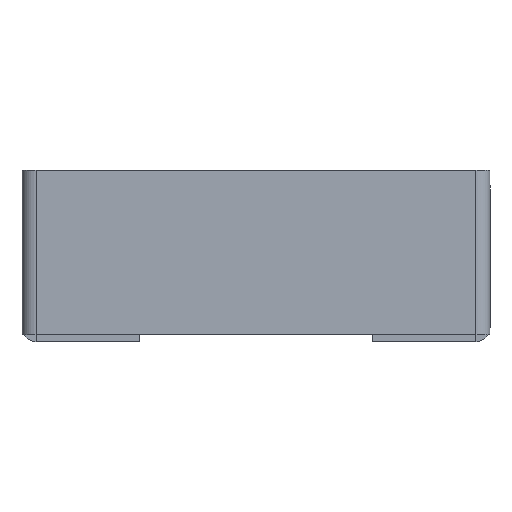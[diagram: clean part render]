
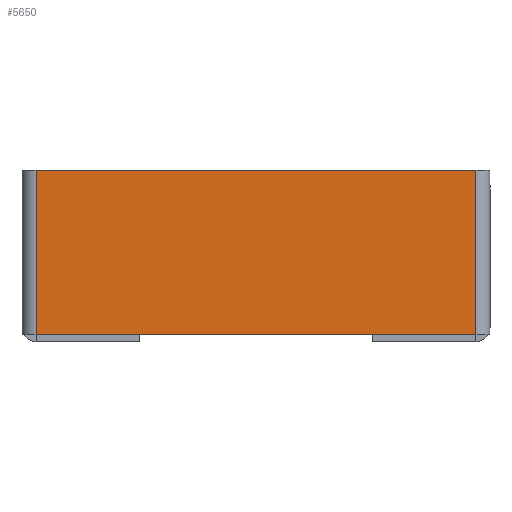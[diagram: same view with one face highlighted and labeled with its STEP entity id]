
A CAD part, front view. The second image highlights one B-rep face of the part: STEP entity #5650.
In plain terms, the highlighted planar face has unit normal (0, -1, 0).
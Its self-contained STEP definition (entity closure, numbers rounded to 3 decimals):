
#289 = EDGE_LOOP ( 'NONE', ( #4164, #455, #4034, #5615 ) ) ;
#455 = ORIENTED_EDGE ( 'NONE', *, *, #5684, .F. ) ;
#465 = LINE ( 'NONE', #3318, #2750 ) ;
#850 = CARTESIAN_POINT ( 'NONE',  ( 77.5, -2.5, -58. ) ) ;
#1040 = LINE ( 'NONE', #2241, #4357 ) ;
#1081 = VERTEX_POINT ( 'NONE', #850 ) ;
#1470 = CARTESIAN_POINT ( 'NONE',  ( -77.5, -2.5, -58. ) ) ;
#1494 = DIRECTION ( 'NONE',  ( 0., 0., 1. ) ) ;
#1517 = CARTESIAN_POINT ( 'NONE',  ( -80., -2.5, 0. ) ) ;
#1628 = CARTESIAN_POINT ( 'NONE',  ( -80., -2.5, -58. ) ) ;
#2241 = CARTESIAN_POINT ( 'NONE',  ( -77.5, -2.5, 0. ) ) ;
#2457 = CARTESIAN_POINT ( 'NONE',  ( 77.5, -2.5, 0. ) ) ;
#2750 = VECTOR ( 'NONE', #1494, 1000. ) ;
#2875 = DIRECTION ( 'NONE',  ( 1., 0., 0. ) ) ;
#3138 = DIRECTION ( 'NONE',  ( 0., 0., -1. ) ) ;
#3220 = VERTEX_POINT ( 'NONE', #1470 ) ;
#3318 = CARTESIAN_POINT ( 'NONE',  ( 77.5, -2.5, -58. ) ) ;
#3348 = VERTEX_POINT ( 'NONE', #2457 ) ;
#3562 = VECTOR ( 'NONE', #2875, 1000. ) ;
#3703 = AXIS2_PLACEMENT_3D ( 'NONE', #4257, #5230, #5695 ) ;
#3855 = DIRECTION ( 'NONE',  ( -1., 0., 0. ) ) ;
#3859 = EDGE_CURVE ( 'NONE', #5146, #3220, #1040, .T. ) ;
#3893 = CARTESIAN_POINT ( 'NONE',  ( -77.5, -2.5, 0. ) ) ;
#4034 = ORIENTED_EDGE ( 'NONE', *, *, #4336, .T. ) ;
#4068 = VECTOR ( 'NONE', #3855, 1000. ) ;
#4164 = ORIENTED_EDGE ( 'NONE', *, *, #3859, .T. ) ;
#4206 = FACE_OUTER_BOUND ( 'NONE', #289, .T. ) ;
#4257 = CARTESIAN_POINT ( 'NONE',  ( 0., -2.5, 0. ) ) ;
#4336 = EDGE_CURVE ( 'NONE', #1081, #3348, #465, .T. ) ;
#4357 = VECTOR ( 'NONE', #3138, 1000. ) ;
#4750 = PLANE ( 'NONE',  #3703 ) ;
#5036 = LINE ( 'NONE', #1628, #4068 ) ;
#5146 = VERTEX_POINT ( 'NONE', #3893 ) ;
#5230 = DIRECTION ( 'NONE',  ( 0., 1., 0. ) ) ;
#5609 = LINE ( 'NONE', #1517, #3562 ) ;
#5615 = ORIENTED_EDGE ( 'NONE', *, *, #5632, .F. ) ;
#5632 = EDGE_CURVE ( 'NONE', #5146, #3348, #5609, .T. ) ;
#5650 = ADVANCED_FACE ( 'NONE', ( #4206 ), #4750, .F. ) ;
#5684 = EDGE_CURVE ( 'NONE', #1081, #3220, #5036, .T. ) ;
#5695 = DIRECTION ( 'NONE',  ( 0., 0., 1. ) ) ;
